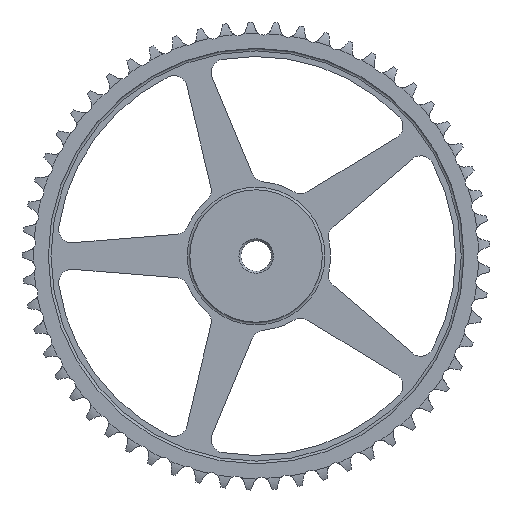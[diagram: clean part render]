
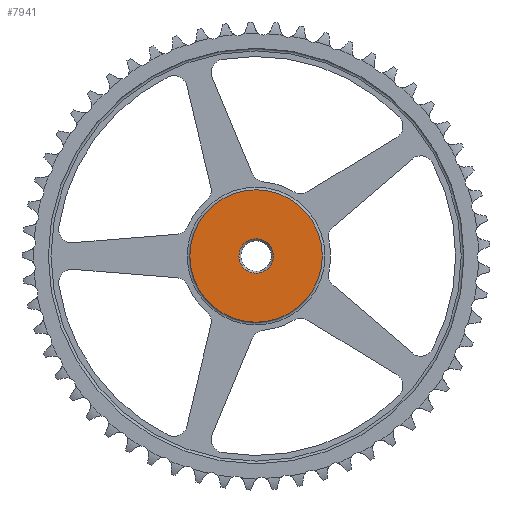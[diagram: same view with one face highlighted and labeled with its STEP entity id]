
A CAD part, left-side view. The second image highlights one B-rep face of the part: STEP entity #7941.
In plain terms, the highlighted planar face has unit normal (-1, 0, 0).
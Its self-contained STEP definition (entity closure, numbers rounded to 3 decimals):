
#43=FACE_BOUND('',#1518,.T.);
#86=PLANE('',#8809);
#649=CIRCLE('',#8808,50.);
#650=CIRCLE('',#8810,13.);
#1076=FACE_OUTER_BOUND('',#1517,.T.);
#1517=EDGE_LOOP('',(#7060));
#1518=EDGE_LOOP('',(#7061));
#3492=VERTEX_POINT('',#15843);
#3493=VERTEX_POINT('',#15846);
#4741=EDGE_CURVE('',#3492,#3492,#649,.T.);
#4742=EDGE_CURVE('',#3493,#3493,#650,.T.);
#7060=ORIENTED_EDGE('',*,*,#4741,.T.);
#7061=ORIENTED_EDGE('',*,*,#4742,.F.);
#7941=ADVANCED_FACE('',(#1076,#43),#86,.T.);
#8808=AXIS2_PLACEMENT_3D('',#15844,#10855,#10856);
#8809=AXIS2_PLACEMENT_3D('',#15845,#10857,#10858);
#8810=AXIS2_PLACEMENT_3D('',#15847,#10859,#10860);
#10855=DIRECTION('center_axis',(-1.,0.,0.));
#10856=DIRECTION('ref_axis',(0.,0.,1.));
#10857=DIRECTION('center_axis',(-1.,0.,0.));
#10858=DIRECTION('ref_axis',(0.,0.,1.));
#10859=DIRECTION('center_axis',(-1.,0.,0.));
#10860=DIRECTION('ref_axis',(0.,0.,1.));
#15843=CARTESIAN_POINT('',(-5.44,129.338,0.));
#15844=CARTESIAN_POINT('Origin',(-5.44,179.338,0.));
#15845=CARTESIAN_POINT('Origin',(-5.44,166.338,0.));
#15846=CARTESIAN_POINT('',(-5.44,166.338,0.));
#15847=CARTESIAN_POINT('Origin',(-5.44,179.338,0.));
